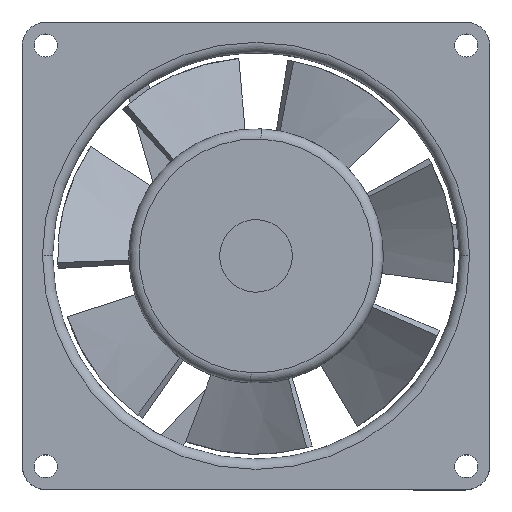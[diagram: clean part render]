
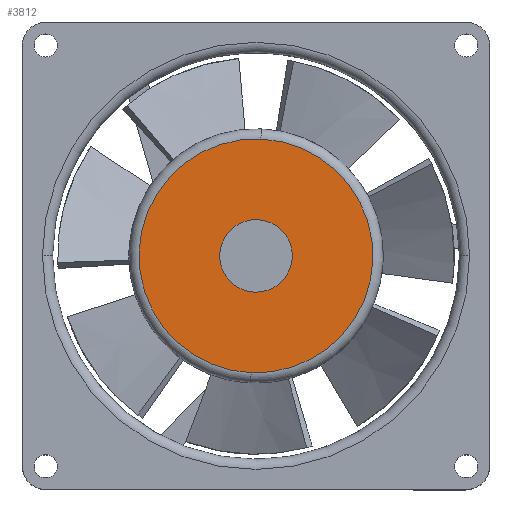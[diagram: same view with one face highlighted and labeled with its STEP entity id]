
A CAD part, top view. The second image highlights one B-rep face of the part: STEP entity #3812.
In plain terms, the highlighted planar face has unit normal (0, 0, 1).
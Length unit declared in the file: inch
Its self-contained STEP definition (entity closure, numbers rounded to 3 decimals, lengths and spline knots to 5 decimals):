
#179 = DIRECTION ( 'NONE',  ( 0., 0., 1. ) ) ;
#575 = CARTESIAN_POINT ( 'NONE',  ( 0., 0., 1. ) ) ;
#711 = EDGE_LOOP ( 'NONE', ( #5142, #2651 ) ) ;
#777 = CARTESIAN_POINT ( 'NONE',  ( 0., 0., 1. ) ) ;
#969 = ORIENTED_EDGE ( 'NONE', *, *, #980, .F. ) ;
#980 = EDGE_CURVE ( 'NONE', #5374, #6117, #2638, .T. ) ;
#990 = PLANE ( 'NONE',  #4761 ) ;
#1043 = DIRECTION ( 'NONE',  ( -0.042, -0.999, 0. ) ) ;
#1501 = AXIS2_PLACEMENT_3D ( 'NONE', #777, #179, #3680 ) ;
#1572 = DIRECTION ( 'NONE',  ( -0.042, -0.999, 0. ) ) ;
#1747 = VERTEX_POINT ( 'NONE', #6659 ) ;
#2169 = CARTESIAN_POINT ( 'NONE',  ( -0.01172, -0.2809, 1. ) ) ;
#2380 = AXIS2_PLACEMENT_3D ( 'NONE', #6991, #5725, #1043 ) ;
#2483 = DIRECTION ( 'NONE',  ( 0.042, 0.999, 0. ) ) ;
#2587 = EDGE_CURVE ( 'NONE', #5452, #1747, #5494, .T. ) ;
#2638 = CIRCLE ( 'NONE', #4786, 0.28115 ) ;
#2651 = ORIENTED_EDGE ( 'NONE', *, *, #7301, .T. ) ;
#3347 = DIRECTION ( 'NONE',  ( 0., 0., -1. ) ) ;
#3680 = DIRECTION ( 'NONE',  ( 0.042, 0.999, 0. ) ) ;
#3812 = ADVANCED_FACE ( 'NONE', ( #7063, #6400 ), #990, .F. ) ;
#4195 = AXIS2_PLACEMENT_3D ( 'NONE', #5174, #5670, #6277 ) ;
#4331 = DIRECTION ( 'NONE',  ( 0., 0., 1. ) ) ;
#4484 = ORIENTED_EDGE ( 'NONE', *, *, #6662, .F. ) ;
#4761 = AXIS2_PLACEMENT_3D ( 'NONE', #2169, #3347, #1572 ) ;
#4786 = AXIS2_PLACEMENT_3D ( 'NONE', #575, #4331, #2483 ) ;
#4834 = CIRCLE ( 'NONE', #1501, 0.28115 ) ;
#4839 = CIRCLE ( 'NONE', #4195, 0.90551 ) ;
#4896 = CARTESIAN_POINT ( 'NONE',  ( -0.01172, -0.2809, 1. ) ) ;
#5142 = ORIENTED_EDGE ( 'NONE', *, *, #2587, .T. ) ;
#5146 = CARTESIAN_POINT ( 'NONE',  ( 0.01172, 0.2809, 1. ) ) ;
#5174 = CARTESIAN_POINT ( 'NONE',  ( 0., 0., 1. ) ) ;
#5374 = VERTEX_POINT ( 'NONE', #4896 ) ;
#5452 = VERTEX_POINT ( 'NONE', #6677 ) ;
#5494 = CIRCLE ( 'NONE', #2380, 0.90551 ) ;
#5670 = DIRECTION ( 'NONE',  ( 0., 0., 1. ) ) ;
#5725 = DIRECTION ( 'NONE',  ( 0., 0., 1. ) ) ;
#6117 = VERTEX_POINT ( 'NONE', #5146 ) ;
#6277 = DIRECTION ( 'NONE',  ( -0.042, -0.999, 0. ) ) ;
#6400 = FACE_BOUND ( 'NONE', #6725, .T. ) ;
#6659 = CARTESIAN_POINT ( 'NONE',  ( 0.03775, 0.90472, 1. ) ) ;
#6662 = EDGE_CURVE ( 'NONE', #6117, #5374, #4834, .T. ) ;
#6677 = CARTESIAN_POINT ( 'NONE',  ( -0.03775, -0.90472, 1. ) ) ;
#6725 = EDGE_LOOP ( 'NONE', ( #4484, #969 ) ) ;
#6991 = CARTESIAN_POINT ( 'NONE',  ( 0., 0., 1. ) ) ;
#7063 = FACE_OUTER_BOUND ( 'NONE', #711, .T. ) ;
#7301 = EDGE_CURVE ( 'NONE', #1747, #5452, #4839, .T. ) ;
